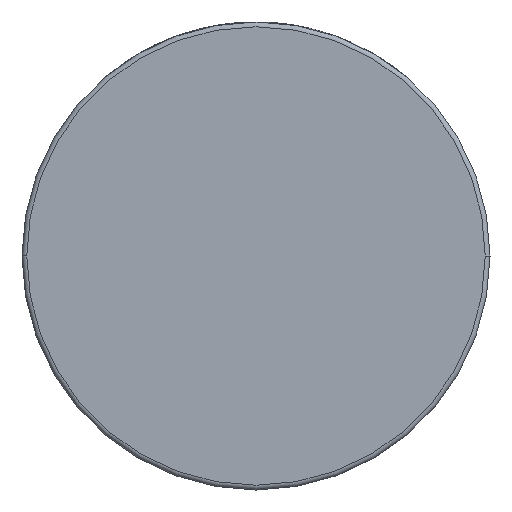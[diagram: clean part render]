
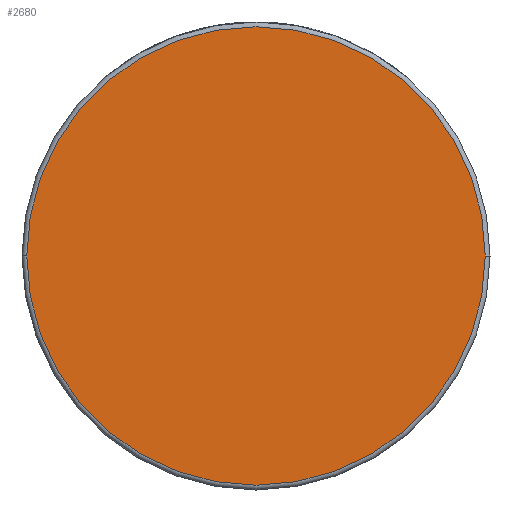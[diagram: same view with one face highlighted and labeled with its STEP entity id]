
A CAD part, front view. The second image highlights one B-rep face of the part: STEP entity #2680.
In plain terms, the highlighted planar face has unit normal (0, -1, 0).
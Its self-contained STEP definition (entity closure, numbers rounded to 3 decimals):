
#89 = DIRECTION ( 'NONE',  ( 0., -1., 0. ) ) ;
#473 = AXIS2_PLACEMENT_3D ( 'NONE', #2063, #89, #1016 ) ;
#619 = AXIS2_PLACEMENT_3D ( 'NONE', #2744, #1010, #2402 ) ;
#663 = PLANE ( 'NONE',  #3459 ) ;
#975 = EDGE_LOOP ( 'NONE', ( #2927, #2944 ) ) ;
#1010 = DIRECTION ( 'NONE',  ( 0., -1., 0. ) ) ;
#1016 = DIRECTION ( 'NONE',  ( 1., 0., 0. ) ) ;
#1272 = EDGE_CURVE ( 'NONE', #3761, #4368, #2147, .T. ) ;
#1685 = CARTESIAN_POINT ( 'NONE',  ( 49., -30.5, 0. ) ) ;
#2063 = CARTESIAN_POINT ( 'NONE',  ( 0., -30.5, 0. ) ) ;
#2147 = CIRCLE ( 'NONE', #473, 48. ) ;
#2326 = FACE_OUTER_BOUND ( 'NONE', #975, .T. ) ;
#2350 = DIRECTION ( 'NONE',  ( 1., 0., 0. ) ) ;
#2402 = DIRECTION ( 'NONE',  ( 1., 0., 0. ) ) ;
#2417 = CARTESIAN_POINT ( 'NONE',  ( 48., -30.5, 0. ) ) ;
#2541 = EDGE_CURVE ( 'NONE', #4368, #3761, #4467, .T. ) ;
#2680 = ADVANCED_FACE ( 'NONE', ( #2326 ), #663, .T. ) ;
#2682 = CARTESIAN_POINT ( 'NONE',  ( -48., -30.5, 0. ) ) ;
#2744 = CARTESIAN_POINT ( 'NONE',  ( 0., -30.5, 0. ) ) ;
#2927 = ORIENTED_EDGE ( 'NONE', *, *, #2541, .T. ) ;
#2944 = ORIENTED_EDGE ( 'NONE', *, *, #1272, .T. ) ;
#3459 = AXIS2_PLACEMENT_3D ( 'NONE', #1685, #4433, #2350 ) ;
#3761 = VERTEX_POINT ( 'NONE', #2682 ) ;
#4368 = VERTEX_POINT ( 'NONE', #2417 ) ;
#4433 = DIRECTION ( 'NONE',  ( 0., -1., 0. ) ) ;
#4467 = CIRCLE ( 'NONE', #619, 48. ) ;
